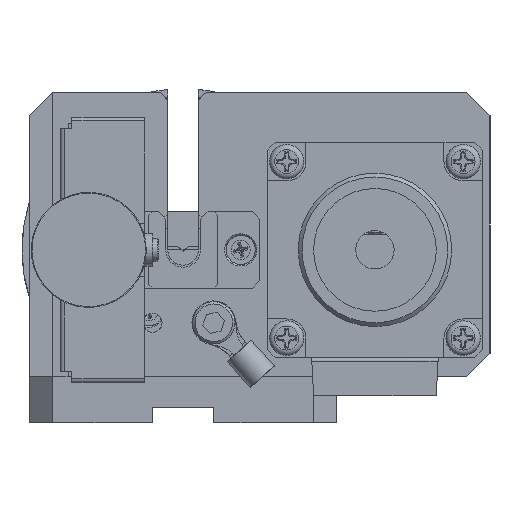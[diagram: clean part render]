
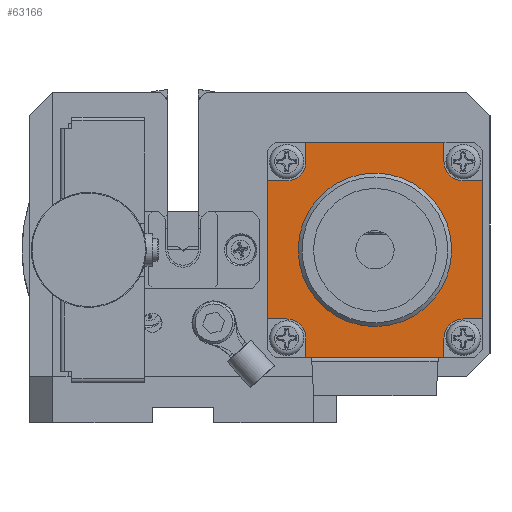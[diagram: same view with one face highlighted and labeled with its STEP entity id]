
A CAD part, left-side view. The second image highlights one B-rep face of the part: STEP entity #63166.
In plain terms, the highlighted planar face has unit normal (-1, 0, 0).
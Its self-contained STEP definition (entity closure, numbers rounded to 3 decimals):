
#4762=FACE_BOUND('',#13175,.T.);
#6469=CIRCLE('',#67085,2.5);
#6472=CIRCLE('',#67113,2.5);
#6473=CIRCLE('',#67116,2.5);
#6474=CIRCLE('',#67117,2.5);
#6475=CIRCLE('',#67118,2.5);
#9549=FACE_OUTER_BOUND('',#13174,.T.);
#13174=EDGE_LOOP('',(#43678,#43679,#43680,#43681,#43682,#43683,#43684,#43685,
#43686,#43687,#43688,#43689,#43690,#43691,#43692,#43693));
#13175=EDGE_LOOP('',(#43694,#43695));
#17019=LINE('',#91611,#22025);
#17027=LINE('',#91627,#22033);
#17043=LINE('',#91659,#22049);
#17151=LINE('',#92172,#22157);
#17186=LINE('',#92255,#22192);
#17189=LINE('',#92262,#22195);
#17190=LINE('',#92265,#22196);
#17191=LINE('',#92269,#22197);
#17192=LINE('',#92270,#22198);
#17193=LINE('',#92272,#22199);
#17194=LINE('',#92275,#22200);
#17195=LINE('',#92277,#22201);
#17196=LINE('',#92280,#22202);
#22025=VECTOR('',#73710,10.);
#22033=VECTOR('',#73722,10.);
#22049=VECTOR('',#73742,10.);
#22157=VECTOR('',#74180,10.);
#22192=VECTOR('',#74263,10.);
#22195=VECTOR('',#74272,10.);
#22196=VECTOR('',#74275,10.);
#22197=VECTOR('',#74278,10.);
#22198=VECTOR('',#74279,10.);
#22199=VECTOR('',#74280,10.);
#22200=VECTOR('',#74283,10.);
#22201=VECTOR('',#74284,10.);
#22202=VECTOR('',#74287,10.);
#27040=VERTEX_POINT('',#91608);
#27041=VERTEX_POINT('',#91610);
#27046=VERTEX_POINT('',#91624);
#27047=VERTEX_POINT('',#91626);
#27060=VERTEX_POINT('',#91656);
#27061=VERTEX_POINT('',#91658);
#27204=VERTEX_POINT('',#92164);
#27205=VERTEX_POINT('',#92166);
#27228=VERTEX_POINT('',#92252);
#27229=VERTEX_POINT('',#92254);
#27230=VERTEX_POINT('',#92258);
#27231=VERTEX_POINT('',#92264);
#27232=VERTEX_POINT('',#92266);
#27233=VERTEX_POINT('',#92268);
#27234=VERTEX_POINT('',#92271);
#27235=VERTEX_POINT('',#92273);
#27236=VERTEX_POINT('',#92276);
#27237=VERTEX_POINT('',#92278);
#33330=EDGE_CURVE('',#27040,#27041,#17019,.T.);
#33338=EDGE_CURVE('',#27046,#27047,#17027,.T.);
#33354=EDGE_CURVE('',#27060,#27061,#17043,.T.);
#33572=EDGE_CURVE('',#27205,#27204,#6469,.T.);
#33575=EDGE_CURVE('',#27205,#27204,#17151,.T.);
#33614=EDGE_CURVE('',#27229,#27228,#17186,.T.);
#33617=EDGE_CURVE('',#27228,#27230,#6472,.T.);
#33618=EDGE_CURVE('',#27230,#27041,#17189,.T.);
#33619=EDGE_CURVE('',#27060,#27231,#17190,.T.);
#33620=EDGE_CURVE('',#27231,#27232,#6473,.T.);
#33621=EDGE_CURVE('',#27232,#27233,#17191,.T.);
#33622=EDGE_CURVE('',#27229,#27233,#17192,.T.);
#33623=EDGE_CURVE('',#27040,#27234,#17193,.T.);
#33624=EDGE_CURVE('',#27234,#27235,#6474,.T.);
#33625=EDGE_CURVE('',#27235,#27047,#17194,.T.);
#33626=EDGE_CURVE('',#27046,#27236,#17195,.T.);
#33627=EDGE_CURVE('',#27236,#27237,#6475,.T.);
#33628=EDGE_CURVE('',#27237,#27061,#17196,.T.);
#43678=ORIENTED_EDGE('',*,*,#33619,.T.);
#43679=ORIENTED_EDGE('',*,*,#33620,.T.);
#43680=ORIENTED_EDGE('',*,*,#33621,.T.);
#43681=ORIENTED_EDGE('',*,*,#33622,.F.);
#43682=ORIENTED_EDGE('',*,*,#33614,.T.);
#43683=ORIENTED_EDGE('',*,*,#33617,.T.);
#43684=ORIENTED_EDGE('',*,*,#33618,.T.);
#43685=ORIENTED_EDGE('',*,*,#33330,.F.);
#43686=ORIENTED_EDGE('',*,*,#33623,.T.);
#43687=ORIENTED_EDGE('',*,*,#33624,.T.);
#43688=ORIENTED_EDGE('',*,*,#33625,.T.);
#43689=ORIENTED_EDGE('',*,*,#33338,.F.);
#43690=ORIENTED_EDGE('',*,*,#33626,.T.);
#43691=ORIENTED_EDGE('',*,*,#33627,.T.);
#43692=ORIENTED_EDGE('',*,*,#33628,.T.);
#43693=ORIENTED_EDGE('',*,*,#33354,.F.);
#43694=ORIENTED_EDGE('',*,*,#33572,.T.);
#43695=ORIENTED_EDGE('',*,*,#33575,.F.);
#61572=PLANE('',#67115);
#63166=ADVANCED_FACE('',(#9549,#4762),#61572,.T.);
#67085=AXIS2_PLACEMENT_3D('',#92167,#74172,#74173);
#67113=AXIS2_PLACEMENT_3D('',#92260,#74268,#74269);
#67115=AXIS2_PLACEMENT_3D('',#92263,#74273,#74274);
#67116=AXIS2_PLACEMENT_3D('',#92267,#74276,#74277);
#67117=AXIS2_PLACEMENT_3D('',#92274,#74281,#74282);
#67118=AXIS2_PLACEMENT_3D('',#92279,#74285,#74286);
#73710=DIRECTION('',(0.,0.,1.));
#73722=DIRECTION('',(0.,1.,0.));
#73742=DIRECTION('',(0.,0.,-1.));
#74172=DIRECTION('center_axis',(1.,0.,0.));
#74173=DIRECTION('ref_axis',(0.,0.,-1.));
#74180=DIRECTION('',(0.,1.,0.));
#74263=DIRECTION('',(0.,0.,-1.));
#74268=DIRECTION('center_axis',(1.,0.,0.));
#74269=DIRECTION('ref_axis',(0.,0.,1.));
#74272=DIRECTION('',(0.,1.,0.));
#74273=DIRECTION('center_axis',(-1.,0.,0.));
#74274=DIRECTION('ref_axis',(0.,0.,1.));
#74275=DIRECTION('',(0.,1.,0.));
#74276=DIRECTION('center_axis',(1.,0.,0.));
#74277=DIRECTION('ref_axis',(0.,-1.,0.));
#74278=DIRECTION('',(0.,0.,1.));
#74279=DIRECTION('',(0.,-1.,0.));
#74280=DIRECTION('',(0.,-1.,0.));
#74281=DIRECTION('center_axis',(1.,0.,0.));
#74282=DIRECTION('ref_axis',(0.,1.,0.));
#74283=DIRECTION('',(0.,0.,-1.));
#74284=DIRECTION('',(0.,0.,1.));
#74285=DIRECTION('center_axis',(1.,0.,0.));
#74286=DIRECTION('ref_axis',(0.,0.,-1.));
#74287=DIRECTION('',(0.,-1.,0.));
#91608=CARTESIAN_POINT('',(-32.,-11.,13.5));
#91610=CARTESIAN_POINT('',(-32.,-11.,31.5));
#91611=CARTESIAN_POINT('',(-32.,-11.,8.5));
#91624=CARTESIAN_POINT('',(-32.,-34.,8.5));
#91626=CARTESIAN_POINT('',(-32.,-16.,8.5));
#91627=CARTESIAN_POINT('',(-32.,-39.,8.5));
#91656=CARTESIAN_POINT('',(-32.,-39.,31.5));
#91658=CARTESIAN_POINT('',(-32.,-39.,13.5));
#91659=CARTESIAN_POINT('',(-32.,-39.,36.5));
#92164=CARTESIAN_POINT('',(-32.,-23.5,24.5));
#92166=CARTESIAN_POINT('',(-32.,-26.5,24.5));
#92167=CARTESIAN_POINT('Origin',(-32.,-25.,22.5));
#92172=CARTESIAN_POINT('',(-32.,-24.25,24.5));
#92252=CARTESIAN_POINT('',(-32.,-16.,34.));
#92254=CARTESIAN_POINT('',(-32.,-16.,36.5));
#92255=CARTESIAN_POINT('',(-32.,-16.,28.25));
#92258=CARTESIAN_POINT('',(-32.,-13.5,31.5));
#92260=CARTESIAN_POINT('Origin',(-32.,-13.5,34.));
#92262=CARTESIAN_POINT('',(-32.,-18.,31.5));
#92263=CARTESIAN_POINT('Origin',(-32.,-25.,22.5));
#92264=CARTESIAN_POINT('',(-32.,-36.5,31.5));
#92265=CARTESIAN_POINT('',(-32.,-30.75,31.5));
#92266=CARTESIAN_POINT('',(-32.,-34.,34.));
#92267=CARTESIAN_POINT('Origin',(-32.,-36.5,34.));
#92268=CARTESIAN_POINT('',(-32.,-34.,36.5));
#92269=CARTESIAN_POINT('',(-32.,-34.,29.5));
#92270=CARTESIAN_POINT('',(-32.,-11.,36.5));
#92271=CARTESIAN_POINT('',(-32.,-13.5,13.5));
#92272=CARTESIAN_POINT('',(-32.,-19.25,13.5));
#92273=CARTESIAN_POINT('',(-32.,-16.,11.));
#92274=CARTESIAN_POINT('Origin',(-32.,-13.5,11.));
#92275=CARTESIAN_POINT('',(-32.,-16.,15.5));
#92276=CARTESIAN_POINT('',(-32.,-34.,11.));
#92277=CARTESIAN_POINT('',(-32.,-34.,16.75));
#92278=CARTESIAN_POINT('',(-32.,-36.5,13.5));
#92279=CARTESIAN_POINT('Origin',(-32.,-36.5,11.));
#92280=CARTESIAN_POINT('',(-32.,-32.,13.5));
